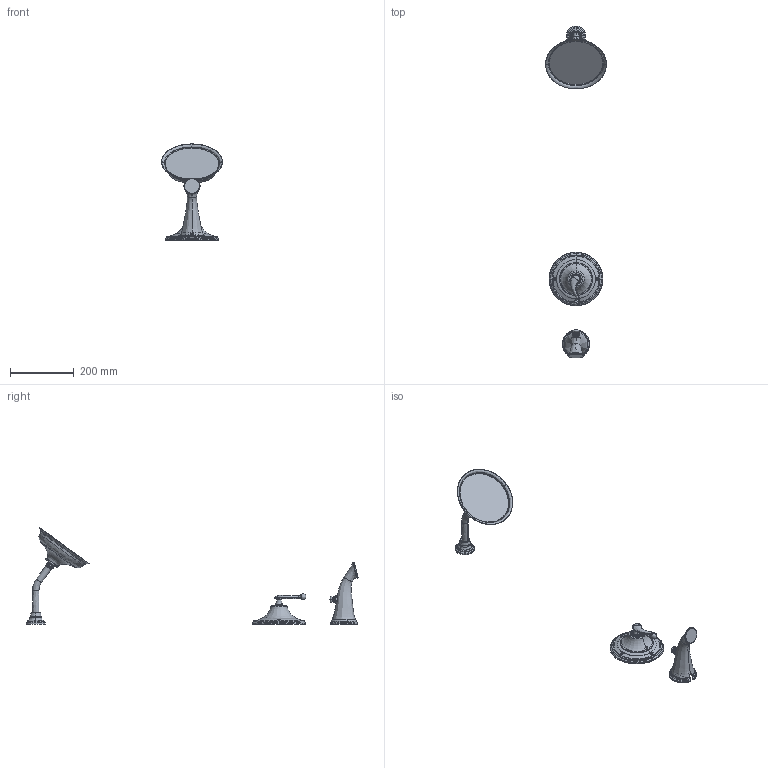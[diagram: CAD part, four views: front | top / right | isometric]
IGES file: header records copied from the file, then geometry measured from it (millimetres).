
Start section:  PTC IGES file: sku_ts394.igs
Global section: file name: sku_ts394.igs; native system: Pro/ENGINEER by Parametric Technology Corporation; preprocessor: 2006460; author: 9dutterb; organization: Unknown; date: 20071102.105446; units: inch
Bounding box: 190.5 x 1039.84 x 301.16 mm (x, y, z)
Surface area: 215926 mm2 (no closed solid volume)
Topology: 0 solids, 0 shells, 261 faces, 1451 edges, 1445 vertices
Faces by surface type: revolution 165, bspline 92, extrusion 4
